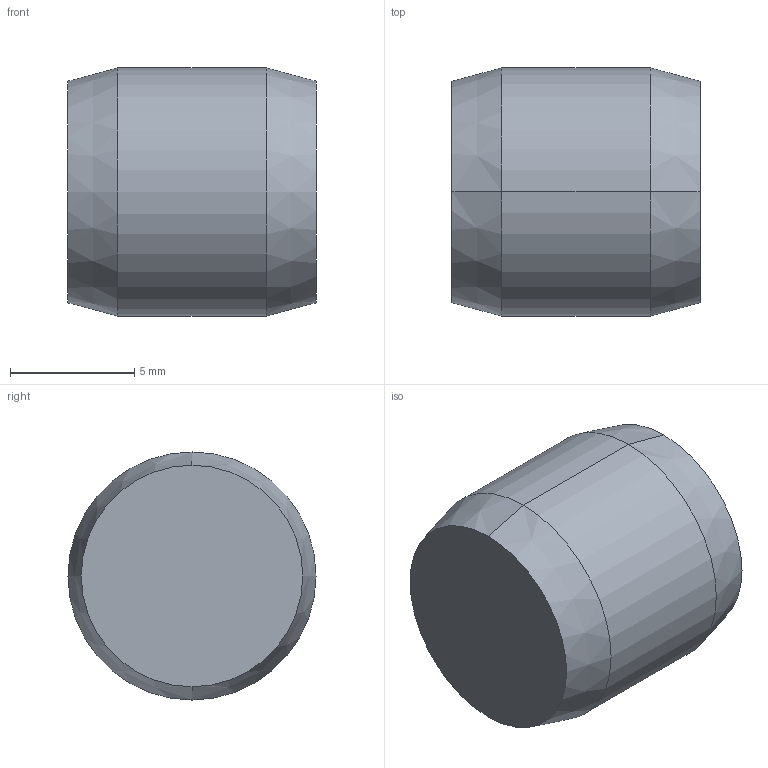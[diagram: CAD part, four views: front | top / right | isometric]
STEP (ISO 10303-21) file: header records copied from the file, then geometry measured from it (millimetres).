
FILE_DESCRIPTION (( 'STEP AP203' ), '1' );
FILE_NAME ('parallel pin unhardened_iso - 10.STEP', '2022-04-13T08:04:16', ( '' ), ( '' ), 'SwSTEP 2.0', 'SolidWorks 2021', '' );
FILE_SCHEMA (( 'CONFIG_CONTROL_DESIGN' ));
Length unit declared in the file: millimetre
Products named in the file (1): parallel pin unhardened_iso - 10
Bounding box: 10 x 10 x 10 mm (x, y, z)
Volume: 752.9 mm3; surface area: 436.8 mm2
Topology: 1 solids, 1 shells, 8 faces, 14 edges, 8 vertices
Faces by surface type: cone 4, cylinder 2, plane 2
Entity records: 271 total; most frequent: DIRECTION 40, CARTESIAN_POINT 31, ORIENTED_EDGE 28, AXIS2_PLACEMENT_3D 17, EDGE_CURVE 14, FACE_OUTER_BOUND 8, ADVANCED_FACE 8, PERSON_AND_ORGANIZATION 8
